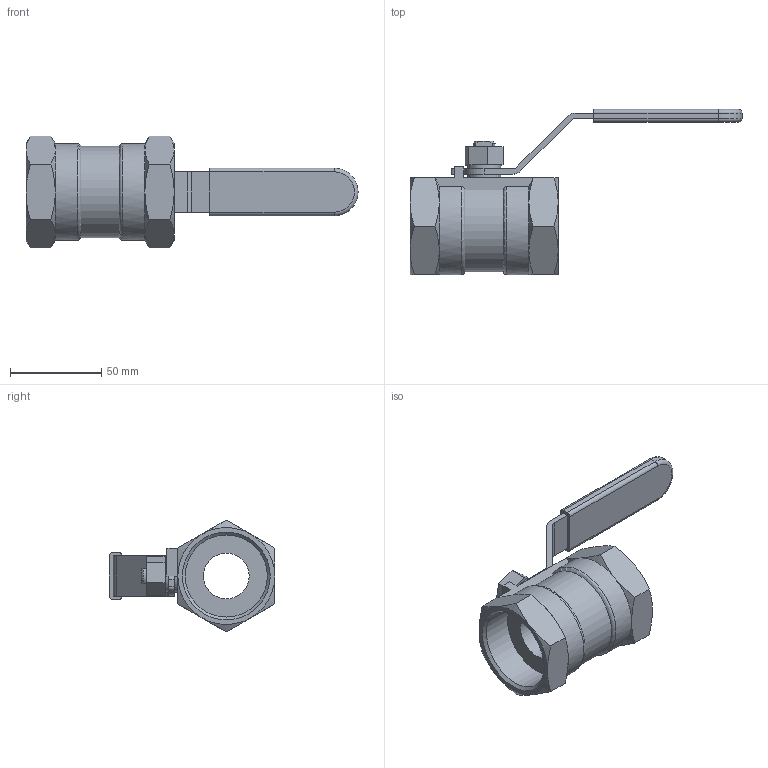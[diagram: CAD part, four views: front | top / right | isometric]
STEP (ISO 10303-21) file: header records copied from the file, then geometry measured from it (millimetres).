
FILE_DESCRIPTION(/* description */ ('Eriks item no: 12427439'),/* implementation_level */ '2;1');
FILE_NAME(/* name */ '7744-DN40-RB-1000PSI-BSP.stp',/* time_stamp */ '2024-02-16T09:51:29+01:00',/* author */ ('roger.thijssen'),/* organization */ (''),/* preprocessor_version */ 'ST-DEVELOPER v19.2',/* originating_system */ 'Autodesk Inventor 2024',/* authorisation */ '');
FILE_SCHEMA (('AUTOMOTIVE_DESIGN { 1 0 10303 214 3 1 1 }'));
Length unit declared in the file: millimetre
Products named in the file (1): Ball valve, 7744-DN40-RB-1000PSI-BSP
Bounding box: 181.5 x 90.5 x 61.2 mm (x, y, z)
Volume: 128345.9 mm3; surface area: 36893.7 mm2
Topology: 1 solids, 1 shells, 328 faces, 846 edges, 552 vertices
Faces by surface type: plane 234, cylinder 49, cone 28, bspline 13, torus 4
Full cylindrical faces by diameter (mm): 18 x2, 25 x1, 44.845 x2
Entity records: 10365 total; most frequent: CARTESIAN_POINT 2084, ORIENTED_EDGE 1692, DIRECTION 1522, EDGE_CURVE 846, LINE 638, VECTOR 638, VERTEX_POINT 552, AXIS2_PLACEMENT_3D 442
